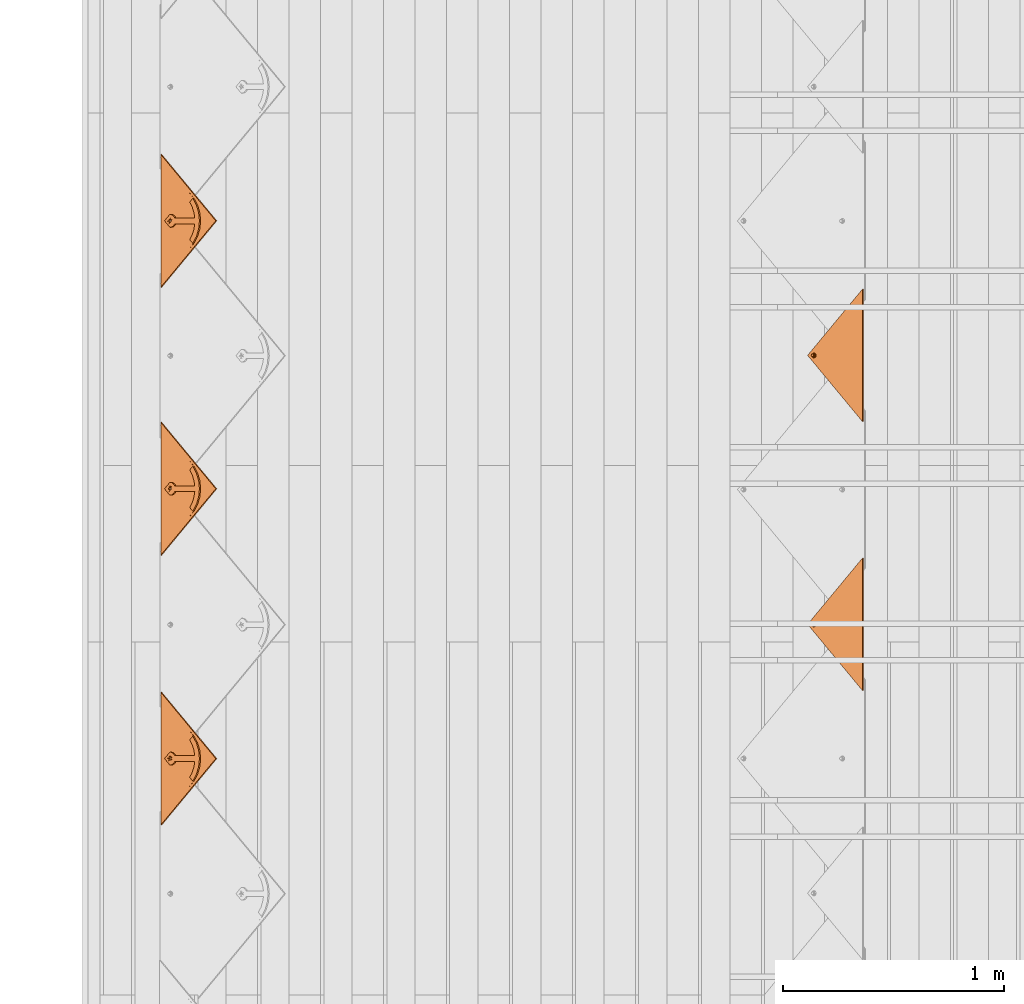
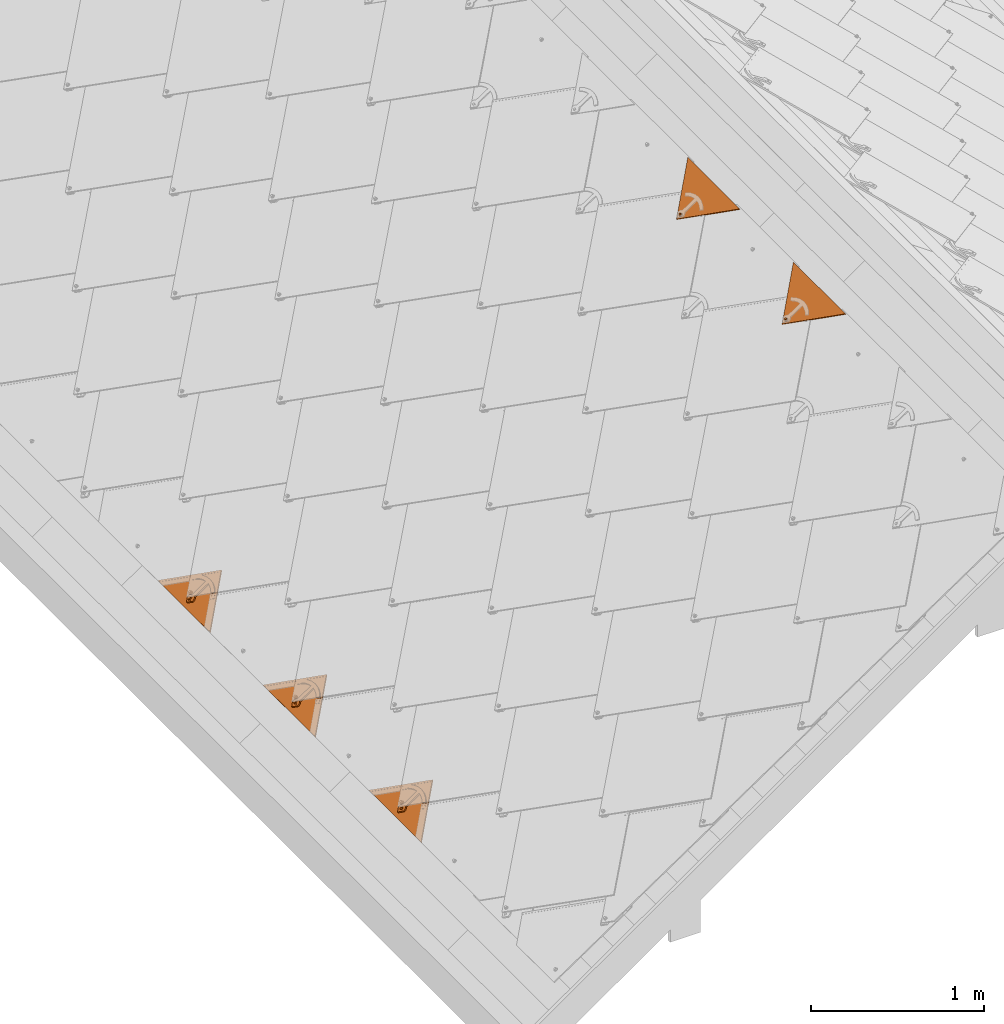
# One storey, part 100 of 133: 5 proxies.
"""IFC2X3 building model written with IfcOpenShell, lengths in millimetres."""

from ifc_helpers import new_model, entity, si_unit, converted_unit, derived_unit, direction, frame, origin, place, context, subcontext, project, spatial, faceted_brep, source, transform, mapped, material, material_list, type_object, type_shapes, element, save


model = new_model("IFC2X3")

# Units and contexts
model_context = context("Model", 3, precision=0.01, world=origin(), true_north=direction((6.12303176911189e-17, 1.0)))
body_context = subcontext(model_context, "Body", "Model", "MODEL_VIEW")
ifc_project = project(units=[si_unit("LENGTHUNIT", "METRE", prefix="MILLI"), si_unit("AREAUNIT", "SQUARE_METRE"), si_unit("VOLUMEUNIT", "CUBIC_METRE"), converted_unit("PLANEANGLEUNIT", "DEGREE", entity("IfcRatioMeasure", 0.0174532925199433), si_unit("PLANEANGLEUNIT", "RADIAN"), dimensions=[0, 0, 0, 0, 0, 0, 0]), si_unit("MASSUNIT", "GRAM", prefix="KILO"), derived_unit("MASSDENSITYUNIT", [(si_unit("MASSUNIT", "GRAM", prefix="KILO"), 1), (si_unit("LENGTHUNIT", "METRE"), -3)]), si_unit("TIMEUNIT", "SECOND"), si_unit("FREQUENCYUNIT", "HERTZ"), si_unit("THERMODYNAMICTEMPERATUREUNIT", "DEGREE_CELSIUS"), derived_unit("THERMALTRANSMITTANCEUNIT", [(si_unit("MASSUNIT", "GRAM", prefix="KILO"), 1), (si_unit("THERMODYNAMICTEMPERATUREUNIT", "KELVIN"), -1), (si_unit("TIMEUNIT", "SECOND"), -3)]), derived_unit("VOLUMETRICFLOWRATEUNIT", [(si_unit("LENGTHUNIT", "METRE"), 3), (si_unit("TIMEUNIT", "SECOND"), -1)]), si_unit("ELECTRICCURRENTUNIT", "AMPERE"), si_unit("ELECTRICVOLTAGEUNIT", "VOLT"), si_unit("POWERUNIT", "WATT"), si_unit("FORCEUNIT", "NEWTON", prefix="KILO"), si_unit("ILLUMINANCEUNIT", "LUX"), si_unit("LUMINOUSFLUXUNIT", "LUMEN"), si_unit("LUMINOUSINTENSITYUNIT", "CANDELA"), derived_unit("USERDEFINED", [(si_unit("MASSUNIT", "GRAM", prefix="KILO"), -1), (si_unit("LENGTHUNIT", "METRE"), -2), (si_unit("TIMEUNIT", "SECOND"), 3), (si_unit("LUMINOUSFLUXUNIT", "LUMEN"), 1)]), derived_unit("LINEARVELOCITYUNIT", [(si_unit("LENGTHUNIT", "METRE"), 1), (si_unit("TIMEUNIT", "SECOND"), -1)]), si_unit("PRESSUREUNIT", "PASCAL"), derived_unit("USERDEFINED", [(si_unit("LENGTHUNIT", "METRE"), -2), (si_unit("MASSUNIT", "GRAM", prefix="KILO"), 1), (si_unit("TIMEUNIT", "SECOND"), -2)])], contexts=[model_context])

# Site, building, storey
site_placement = place(None, origin())
site = spatial("IfcSite", under=ifc_project, at=site_placement, Name="Default", CompositionType="ELEMENT")
building_placement = place(site_placement, origin())
building = spatial("IfcBuilding", under=site, at=building_placement, CompositionType="ELEMENT")
storey_placement = place(building_placement, origin())
storey = spatial("IfcBuildingStorey", under=building, at=storey_placement, Name="Level 1", CompositionType="ELEMENT", Elevation=0.0)

# Proxies
ifc_material_1 = material(Name="Rubber - Sunstyle - Black")
ifc_material_2 = material(Name="Glass - Sunstyle - Tainted Black")
ifc_material_list_1 = material_list([ifc_material_1, ifc_material_2])
ifc_material_list_2 = material_list([ifc_material_1, ifc_material_2])
building_element_proxy_type_1 = type_object("IfcBuildingElementProxyType", Name="Shingle Top Small - Black", PredefinedType="NOTDEFINED", material=ifc_material_list_2)
shared_shape_1 = source(origin(), body_context, "Body", "Brep", [
    faceted_brep([(300.675008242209, 41.77298489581, 1.59527223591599), (294.900805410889, 38.4397147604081, 1.65109621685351), (294.900805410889, 38.8080238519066, 23.6429655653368), (300.675008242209, 42.1412939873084, 23.5871415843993), (294.900805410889, 31.7731744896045, 1.76274417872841), (294.900805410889, 32.1414835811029, 23.7546135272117), (300.675008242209, 28.4399043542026, 1.81856815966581), (300.675008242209, 28.808213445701, 23.8104375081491), (306.44921107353, 31.7731744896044, 1.7627441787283), (306.44921107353, 32.1414835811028, 23.7546135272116), (306.44921107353, 38.4397147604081, 1.65109621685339), (306.44921107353, 38.8080238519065, 23.6429655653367), (292.071304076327, 26.8722558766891, 23.8428599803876), (300.675008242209, 23.3089846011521, 23.9025359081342), (288.507533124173, 35.4747537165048, 23.6987895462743), (292.071304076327, 44.0772515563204, 23.5547191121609), (300.675008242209, 47.6405228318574, 23.4950431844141), (309.278712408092, 44.0772515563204, 23.5547191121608), (312.842483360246, 35.4747537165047, 23.6987895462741), (309.278712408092, 26.872255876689, 23.8428599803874), (289.350763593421, 37.7698308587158, 26.0116314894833), (290.91853368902, 35.5457686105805, 27.9391141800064), (300.67500824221, 42.8588438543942, 28.5718145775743), (300.67500824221, 44.0993414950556, 27.9914679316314), (300.675008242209, 46.2568923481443, 26.98209285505), (300.675008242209, 23.8650286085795, 25.1775938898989), (300.675008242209, 24.8086052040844, 27.3412982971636), (300.675008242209, 28.2579809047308, 28.8163427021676), (300.675008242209, 47.1274867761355, 24.7880055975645), (294.35176254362, 31.9081966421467, 28.7552106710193), (294.35176254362, 39.2086281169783, 28.6329466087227), (311.999252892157, 33.2584106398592, 26.0871865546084), (310.523888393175, 34.4713621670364, 27.8602460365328), (306.998253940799, 39.2086281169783, 28.6329466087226), (306.998253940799, 31.9081966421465, 28.7552106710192), (294.35176254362, 32.0422251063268, 36.7580988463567), (300.67500824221, 28.3920093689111, 36.8192308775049), (300.67500824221, 35.6924408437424, 36.6969668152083), (294.35176254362, 39.342656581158, 36.6358347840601), (306.998253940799, 32.0422251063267, 36.7580988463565), (306.998253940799, 39.342656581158, 36.6358347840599), (300.67500824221, 42.9928723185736, 36.5747027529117), (300.675008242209, 35.1064446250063, 1.7069201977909)], [[[0, 1, 2, 3]], [[1, 4, 5, 2]], [[4, 6, 7, 5]], [[6, 8, 9, 7]], [[8, 10, 11, 9]], [[10, 0, 3, 11]], [[12, 7, 13]], [[7, 12, 5]], [[14, 5, 12]], [[5, 14, 2]], [[15, 2, 14]], [[3, 2, 15]], [[15, 16, 3]], [[16, 17, 3]], [[11, 3, 17]], [[11, 17, 18]], [[9, 11, 18]], [[18, 19, 9]], [[7, 9, 19]], [[19, 13, 7]], [[20, 14, 12]], [[21, 22, 23, 24]], [[24, 20, 21]], [[25, 20, 12]], [[26, 27, 21]], [[15, 14, 20]], [[12, 13, 25]], [[20, 28, 15]], [[28, 20, 24]], [[21, 27, 29]], [[21, 29, 30]], [[26, 21, 20]], [[20, 25, 26]], [[15, 28, 16]], [[21, 30, 22]], [[31, 18, 17]], [[28, 31, 17]], [[32, 27, 26]], [[26, 31, 32]], [[26, 25, 31]], [[25, 19, 31]], [[17, 16, 28]], [[31, 19, 18]], [[24, 31, 28]], [[33, 34, 32]], [[23, 22, 33]], [[24, 32, 31]], [[27, 32, 34]], [[32, 23, 33]], [[19, 25, 13]], [[32, 24, 23]], [[35, 36, 37]], [[37, 38, 35]], [[36, 39, 37]], [[40, 37, 39]], [[37, 40, 41]], [[37, 41, 38]], [[42, 6, 4]], [[4, 1, 42]], [[1, 0, 42]], [[42, 8, 6]], [[0, 10, 42]], [[8, 42, 10]], [[22, 30, 38, 41]], [[30, 29, 35, 38]], [[29, 27, 36, 35]], [[27, 34, 39, 36]], [[34, 33, 40, 39]], [[33, 22, 41, 40]]]),
    faceted_brep([(601.350661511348, 300.716609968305, 19.1616152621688), (307.603211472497, 39.4797476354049, 23.5366826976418), (308.402414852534, 37.5505705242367, 23.5689916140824), (306.331862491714, 41.1363695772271, 23.5089384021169), (308.675008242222, 35.4803084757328, 23.6036633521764), (304.675008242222, 42.4075403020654, 23.4876494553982), (302.745560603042, 43.206631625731, 23.4742666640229), (300.675008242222, 43.4791867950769, 23.4697020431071), (308.402414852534, 33.4100464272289, 23.6383350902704), (300.675330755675, 0.125588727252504, 24.1957669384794), (0.0, 300.716609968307, 19.1616152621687), (298.604455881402, 43.2066316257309, 23.4742666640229), (296.675008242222, 42.4075403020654, 23.4876494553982), (295.018153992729, 41.136369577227, 23.5089384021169), (293.746805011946, 39.4797476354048, 23.5366826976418), (292.947601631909, 37.5505705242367, 23.5689916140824), (292.675008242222, 35.4803084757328, 23.6036633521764), (292.947601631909, 33.4100464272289, 23.6383350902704), (293.746805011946, 31.4808693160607, 23.6706440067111), (307.603211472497, 31.4808693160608, 23.6706440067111), (306.331862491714, 29.8242473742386, 23.698388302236), (304.675008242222, 28.5530766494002, 23.7196772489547), (302.745560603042, 27.7539853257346, 23.73306004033), (300.675008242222, 27.4814301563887, 23.7376246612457), (298.604455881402, 27.7539853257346, 23.73306004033), (296.675008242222, 28.5530766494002, 23.7196772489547), (295.018153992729, 29.8242473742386, 23.698388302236), (0.0, 300.591021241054, 11.6626668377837), (295.018153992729, 41.0107808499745, 16.0099899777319), (293.746805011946, 39.3541589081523, 16.0377342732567), (296.675008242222, 42.2819515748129, 15.9887010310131), (292.947601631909, 37.4249817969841, 16.0700431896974), (298.604455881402, 43.0810428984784, 15.9753182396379), (300.675008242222, 43.3535980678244, 15.9707536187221), (601.350661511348, 300.591021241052, 11.6626668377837), (292.675008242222, 35.3547197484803, 16.1047149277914), (292.947601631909, 33.2844576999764, 16.1393866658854), (300.675330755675, 0.0, 16.6968185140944), (302.745560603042, 43.0810428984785, 15.9753182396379), (304.675008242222, 42.2819515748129, 15.9887010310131), (306.331862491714, 41.0107808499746, 16.0099899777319), (307.603211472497, 39.3541589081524, 16.0377342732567), (308.402414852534, 37.4249817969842, 16.0700431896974), (308.675008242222, 35.3547197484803, 16.1047149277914), (308.402414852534, 33.2844576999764, 16.1393866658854), (307.603211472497, 31.3552805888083, 16.171695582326), (293.746805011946, 31.3552805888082, 16.171695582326), (295.018153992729, 29.6986586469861, 16.1994398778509), (296.675008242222, 28.4274879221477, 16.2207288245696), (298.604455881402, 27.6283965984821, 16.2341116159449), (300.675008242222, 27.3558414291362, 16.2386762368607), (302.745560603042, 27.6283965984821, 16.2341116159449), (304.675008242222, 28.4274879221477, 16.2207288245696), (306.331862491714, 29.6986586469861, 16.1994398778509)], [[[0, 1, 2]], [[1, 0, 3]], [[0, 2, 4]], [[5, 3, 0]], [[6, 5, 0]], [[0, 7, 6]], [[4, 8, 0]], [[8, 9, 0]], [[7, 0, 10]], [[11, 7, 10]], [[12, 11, 10]], [[10, 13, 12]], [[13, 10, 14]], [[15, 14, 10]], [[10, 16, 15]], [[17, 16, 10]], [[10, 9, 17]], [[17, 9, 18]], [[8, 19, 9]], [[20, 9, 19]], [[20, 21, 9]], [[22, 9, 21]], [[23, 9, 22]], [[23, 24, 9]], [[24, 25, 9]], [[25, 26, 9]], [[9, 26, 18]], [[27, 28, 29]], [[28, 27, 30]], [[27, 29, 31]], [[32, 30, 27]], [[33, 32, 27]], [[27, 34, 33]], [[31, 35, 27]], [[35, 36, 27]], [[27, 36, 37]], [[38, 33, 34]], [[39, 38, 34]], [[40, 39, 34]], [[34, 41, 40]], [[41, 34, 42]], [[43, 42, 34]], [[34, 44, 43]], [[37, 44, 34]], [[45, 44, 37]], [[37, 36, 46]], [[37, 46, 47]], [[47, 48, 37]], [[48, 49, 37]], [[50, 37, 49]], [[50, 51, 37]], [[37, 51, 52]], [[52, 53, 37]], [[45, 37, 53]], [[9, 10, 27, 37]], [[0, 9, 37, 34]], [[16, 35, 31, 15]], [[15, 31, 29, 14]], [[12, 13, 28, 30]], [[28, 13, 14, 29]], [[11, 12, 30, 32]], [[11, 32, 33, 7]], [[7, 33, 38, 6]], [[6, 38, 39, 5]], [[1, 3, 40, 41]], [[40, 3, 5, 39]], [[2, 1, 41, 42]], [[2, 42, 43, 4]], [[4, 43, 44, 8]], [[8, 44, 45, 19]], [[21, 20, 53, 52]], [[53, 20, 19, 45]], [[22, 21, 52, 51]], [[22, 51, 50, 23]], [[23, 50, 49, 24]], [[24, 49, 48, 25]], [[18, 26, 47, 46]], [[47, 26, 25, 48]], [[17, 18, 46, 36]], [[17, 36, 35, 16]], [[10, 0, 34, 27]]]),
])
type_shapes(building_element_proxy_type_1, [shared_shape_1])
proxy_1_placement = place(storey_placement, frame((558.087990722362, -2543.8597365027, 2379.24450072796), z_axis=(-0.57357643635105, 0.0, 0.819152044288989), x_axis=(0.0, -1.0, 0.0)))
element("IfcBuildingElementProxy", 1, at=proxy_1_placement, inside=storey, type_object=building_element_proxy_type_1, material=ifc_material_list_1, Name="Roofing_Panels_SunStyle_Tile_Shingle-Top-Small:Shingle Top Small - Black", ObjectType="Roofing_Panels_SunStyle_Tile_Shingle-Top-Small:Shingle Top Small - Black", context=body_context, shape_type="MappedRepresentation", body=[
    mapped(shared_shape_1, transform((0.0, 0.0, 0.0), scale=1.0)),
])
ifc_material_list_3 = material_list([ifc_material_1, ifc_material_2])
proxy_2_placement = place(storey_placement, frame((558.08799072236, -3763.42420773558, 2379.24450072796), z_axis=(-0.57357643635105, 0.0, 0.819152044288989), x_axis=(0.0, -1.0, 0.0)))
element("IfcBuildingElementProxy", 2, at=proxy_2_placement, inside=storey, type_object=building_element_proxy_type_1, material=ifc_material_list_3, Name="Roofing_Panels_SunStyle_Tile_Shingle-Top-Small:Shingle Top Small - Black", ObjectType="Roofing_Panels_SunStyle_Tile_Shingle-Top-Small:Shingle Top Small - Black", context=body_context, shape_type="MappedRepresentation", body=[
    mapped(shared_shape_1, transform((0.0, 0.0, 0.0), scale=1.0)),
])
ifc_material_list_4 = material_list([ifc_material_1, ifc_material_2])
ifc_material_list_5 = material_list([ifc_material_1, ifc_material_2])
building_element_proxy_type_2 = type_object("IfcBuildingElementProxyType", Name="Shingle Bottom Small - Black", PredefinedType="NOTDEFINED", material=ifc_material_list_5)
shared_shape_2 = source(origin(), body_context, "Body", "Brep", [
    faceted_brep([(302.08842791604, 44.9093317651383, 22.0558382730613), (302.08842791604, 49.408700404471, 21.980485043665), (293.484723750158, 48.4726030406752, 21.9961623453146), (310.692132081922, 48.4726030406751, 21.9961623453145), (308.728656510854, 53.2419006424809, 21.9162884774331), (314.255903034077, 57.0751008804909, 21.8520919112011), (308.728656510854, 60.9083011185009, 21.7878953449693), (310.692132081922, 65.6775987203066, 21.7080214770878), (302.08842791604, 64.7415013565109, 21.7236987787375), (302.08842791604, 69.2408699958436, 21.6483455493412), (293.484723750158, 65.6775987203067, 21.708021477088), (295.448199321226, 60.908301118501, 21.7878953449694), (289.920952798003, 57.0751008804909, 21.8520919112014), (295.448199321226, 53.2419006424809, 21.9162884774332), (295.448199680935, 60.6403782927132, 5.79013870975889), (302.08842791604, 64.473578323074, 5.72594214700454), (295.448199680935, 52.9739782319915, 5.91853183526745), (302.08842791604, 49.1407782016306, 5.98272839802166), (308.728656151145, 52.9739782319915, 5.91853183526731), (308.728656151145, 60.6403782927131, 5.79013870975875), (293.484723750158, 48.2046804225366, 5.99840570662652), (302.08842791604, 44.6414091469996, 6.05808163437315), (289.920952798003, 56.8071782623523, 5.85433527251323), (293.484723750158, 65.4096761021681, 5.71026483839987), (302.08842791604, 68.972947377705, 5.65058891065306), (310.692132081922, 65.409676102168, 5.71026483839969), (314.255903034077, 56.8071782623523, 5.85433527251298), (310.692132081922, 48.2046804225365, 5.99840570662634)], [[[0, 1, 2]], [[1, 0, 3]], [[3, 4, 1]], [[4, 3, 5]], [[6, 4, 5]], [[5, 7, 6]], [[7, 8, 6]], [[8, 7, 9]], [[8, 9, 10]], [[10, 11, 8]], [[12, 11, 10]], [[2, 13, 12]], [[12, 13, 11]], [[13, 2, 1]], [[8, 11, 14, 15]], [[11, 13, 16, 14]], [[13, 1, 17, 16]], [[1, 4, 18, 17]], [[4, 6, 19, 18]], [[6, 8, 15, 19]], [[20, 17, 21]], [[17, 20, 16]], [[22, 16, 20]], [[14, 16, 22]], [[23, 14, 22]], [[15, 14, 23]], [[23, 24, 15]], [[24, 25, 15]], [[19, 15, 25]], [[19, 25, 26]], [[26, 18, 19]], [[26, 27, 18]], [[17, 18, 27]], [[27, 21, 17]], [[24, 23, 10, 9]], [[10, 23, 22, 12]], [[20, 21, 0, 2]], [[20, 2, 12, 22]], [[21, 27, 3, 0]], [[3, 27, 26, 5]], [[25, 24, 9, 7]], [[25, 7, 5, 26]]]),
    faceted_brep([(587.35835892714, 0.0, 12.5593198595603), (595.843045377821, 8.4846864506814, 12.4172224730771), (595.843045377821, 8.50980419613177, 13.9170121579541), (587.35835892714, 0.0251177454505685, 14.0591095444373), (302.088750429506, 285.189618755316, 7.7831033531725), (16.8191419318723, 0.0, 12.5593198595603), (8.33445548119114, 8.48468645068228, 12.4172224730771), (302.088750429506, 302.156612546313, 7.49894842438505), (302.088750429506, 302.181730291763, 8.9987381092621), (8.33445548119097, 8.50980419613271, 13.9170121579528), (16.8191419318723, 0.0251177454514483, 14.0591095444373), (302.088750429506, 285.214736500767, 9.28289303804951)], [[[0, 1, 2, 3]], [[1, 0, 4, 5, 6, 7]], [[2, 1, 7, 8]], [[3, 2, 8, 9, 10, 11]], [[0, 3, 11, 4]], [[5, 10, 9, 6]], [[8, 7, 6, 9]], [[4, 11, 10, 5]]]),
    faceted_brep([(302.088750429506, 302.156612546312, 7.49894842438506), (305.194256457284, 68.3255429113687, 11.4150370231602), (308.088427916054, 67.1269059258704, 11.4351112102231), (302.088427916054, 68.7343756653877, 11.4081900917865), (310.573709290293, 65.2201498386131, 11.4670446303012), (298.982599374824, 68.3255429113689, 11.4150370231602), (296.088427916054, 67.1269059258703, 11.4351112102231), (293.603146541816, 65.2201498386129, 11.4670446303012), (312.480732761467, 62.7352169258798, 11.5086610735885), (604.177500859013, 0.152567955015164, 12.5567647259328), (291.696123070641, 62.7352169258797, 11.5086610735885), (0.0, 0.152567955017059, 12.5567647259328), (290.497318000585, 59.8414512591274, 11.5571244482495), (290.088427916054, 56.7360581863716, 11.6091320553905), (290.497318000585, 53.6306651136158, 11.6611396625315), (291.696123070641, 50.7368994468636, 11.7096030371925), (293.603146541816, 48.2519665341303, 11.7512194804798), (296.088427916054, 46.3452104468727, 11.7831529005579), (298.982599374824, 45.1465734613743, 11.8032270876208), (302.088427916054, 44.7377407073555, 11.8100740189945), (313.679537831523, 59.8414512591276, 11.5571244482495), (314.088427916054, 56.7360581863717, 11.6091320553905), (313.679537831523, 53.6306651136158, 11.6611396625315), (312.480732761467, 50.7368994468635, 11.7096030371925), (310.573709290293, 48.2519665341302, 11.7512194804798), (308.088427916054, 46.3452104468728, 11.7831529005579), (305.194256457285, 45.1465734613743, 11.8032270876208), (0.0, 0.0269792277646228, 5.0578163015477), (290.088427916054, 56.6104694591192, 4.11018363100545), (290.497318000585, 53.5050763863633, 4.16219123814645), (290.497318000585, 59.7158625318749, 4.05817602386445), (291.696123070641, 50.6113107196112, 4.21065461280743), (291.696123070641, 62.6096281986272, 4.00971264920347), (302.088750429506, 302.031023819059, 0.0), (293.603146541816, 48.1263778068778, 4.25227105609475), (296.088427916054, 46.2196217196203, 4.28420447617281), (298.982599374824, 45.0209847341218, 4.30427866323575), (302.088427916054, 44.612151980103, 4.31112559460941), (604.177500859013, 0.0269792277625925, 5.05781630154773), (293.603146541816, 65.0945611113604, 3.96809620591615), (296.088427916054, 67.0013171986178, 3.93616278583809), (298.982599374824, 68.1999541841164, 3.91608859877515), (302.088427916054, 68.6087869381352, 3.90924166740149), (305.194256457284, 68.1999541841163, 3.91608859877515), (308.088427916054, 67.0013171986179, 3.93616278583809), (310.573709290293, 65.0945611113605, 3.96809620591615), (312.480732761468, 62.6096281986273, 4.00971264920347), (305.194256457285, 45.0209847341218, 4.30427866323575), (308.088427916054, 46.2196217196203, 4.28420447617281), (313.679537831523, 59.7158625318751, 4.05817602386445), (314.088427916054, 56.6104694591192, 4.11018363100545), (313.679537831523, 53.5050763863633, 4.16219123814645), (312.480732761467, 50.611310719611, 4.21065461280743), (310.573709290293, 48.1263778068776, 4.25227105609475)], [[[0, 1, 2]], [[1, 0, 3]], [[0, 2, 4]], [[5, 3, 0]], [[6, 5, 0]], [[0, 7, 6]], [[8, 0, 4]], [[0, 8, 9]], [[7, 0, 10]], [[0, 11, 10]], [[12, 10, 11]], [[11, 13, 12]], [[13, 11, 14]], [[15, 14, 11]], [[11, 16, 15]], [[17, 16, 11]], [[17, 11, 18]], [[19, 18, 11]], [[19, 11, 9]], [[9, 8, 20]], [[20, 21, 9]], [[21, 22, 9]], [[22, 23, 9]], [[9, 23, 24]], [[24, 25, 9]], [[25, 26, 9]], [[9, 26, 19]], [[27, 28, 29]], [[28, 27, 30]], [[27, 29, 31]], [[32, 30, 27]], [[32, 27, 33]], [[31, 34, 27]], [[34, 35, 27]], [[35, 36, 27]], [[36, 37, 27]], [[27, 37, 38]], [[33, 39, 32]], [[40, 39, 33]], [[41, 40, 33]], [[42, 41, 33]], [[33, 43, 42]], [[43, 33, 44]], [[45, 44, 33]], [[33, 46, 45]], [[46, 33, 38]], [[38, 37, 47]], [[47, 48, 38]], [[49, 46, 38]], [[38, 50, 49]], [[50, 38, 51]], [[52, 51, 38]], [[53, 52, 38]], [[53, 38, 48]], [[11, 0, 33, 27]], [[0, 9, 38, 33]], [[13, 28, 30, 12]], [[12, 30, 32, 10]], [[6, 7, 39, 40]], [[39, 7, 10, 32]], [[5, 6, 40, 41]], [[5, 41, 42, 3]], [[3, 42, 43, 1]], [[1, 43, 44, 2]], [[8, 4, 45, 46]], [[45, 4, 2, 44]], [[20, 8, 46, 49]], [[20, 49, 50, 21]], [[21, 50, 51, 22]], [[22, 51, 52, 23]], [[25, 24, 53, 48]], [[53, 24, 23, 52]], [[26, 25, 48, 47]], [[26, 47, 37, 19]], [[19, 37, 36, 18]], [[18, 36, 35, 17]], [[15, 16, 34, 31]], [[34, 16, 17, 35]], [[14, 15, 31, 29]], [[14, 29, 28, 13]], [[9, 11, 27, 38]]]),
    faceted_brep([(190.819384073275, 138.646056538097, 12.7376939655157), (217.144031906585, 164.967013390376, 12.2968834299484), (200.060856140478, 182.04779392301, 12.0108228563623), (193.80845410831, 176.686146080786, 12.100617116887), (187.837458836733, 171.012871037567, 12.1956303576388), (173.141714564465, 156.321247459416, 12.4416784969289), (431.035141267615, 156.321247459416, 12.4416784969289), (416.339396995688, 171.012871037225, 12.1956303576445), (410.36840172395, 176.686146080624, 12.1006171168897), (404.115999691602, 182.047793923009, 12.0108228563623), (387.031626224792, 164.968210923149, 12.2968633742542), (413.357471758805, 138.646056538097, 12.7376939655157), (296.088427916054, 67.294357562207, 21.4337091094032), (288.788427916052, 83.1076295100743, 21.1688761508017), (283.384321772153, 79.569581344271, 21.2281296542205), (293.603146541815, 65.3876014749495, 21.4656425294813), (298.982599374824, 68.4929945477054, 21.4136349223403), (302.088427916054, 68.9018273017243, 21.4067879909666), (315.388427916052, 83.107629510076, 21.1688761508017), (305.194256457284, 68.4929945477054, 21.4136349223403), (308.088427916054, 67.2943575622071, 21.4337091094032), (320.792534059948, 79.5695813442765, 21.2281296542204), (310.573709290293, 65.3876014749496, 21.4656425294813), (325.293078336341, 74.9365758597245, 21.3057209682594), (312.480732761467, 62.9026685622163, 21.5072589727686), (328.672647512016, 69.4324252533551, 21.3979017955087), (313.679537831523, 60.0089028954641, 21.5557223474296), (330.767980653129, 63.323025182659, 21.500219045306), (314.088427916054, 56.9035098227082, 21.6077299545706), (331.477855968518, 56.9035098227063, 21.6077299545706), (313.679537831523, 53.7981167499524, 21.6597375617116), (312.480732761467, 50.9043510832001, 21.7082009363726), (310.573709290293, 48.4194181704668, 21.7498173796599), (302.08842791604, 27.5182024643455, 22.0998607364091), (308.088427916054, 46.5126620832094, 21.7817507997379), (305.194256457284, 45.314025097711, 21.8018249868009), (302.088427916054, 44.9051923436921, 21.8086719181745), (298.982599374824, 45.314025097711, 21.8018249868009), (296.088427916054, 46.5126620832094, 21.7817507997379), (293.603146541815, 48.4194181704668, 21.7498173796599), (272.69899986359, 56.903509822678, 21.6077299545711), (291.696123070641, 50.9043510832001, 21.7082009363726), (290.497318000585, 53.7981167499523, 21.6597375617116), (290.088427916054, 56.9035098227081, 21.6077299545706), (273.408875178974, 63.3230251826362, 21.5002190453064), (290.497318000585, 60.008902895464, 21.5557223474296), (275.504208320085, 69.4324252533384, 21.397901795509), (291.696123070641, 62.9026685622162, 21.5072589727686), (278.883777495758, 74.9365758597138, 21.3057209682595), (288.788427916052, 192.984512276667, 19.3287117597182), (315.388427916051, 192.984512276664, 19.3287117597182), (302.088427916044, 218.456125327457, 18.9021256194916), (338.579268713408, 214.282159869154, 18.9720291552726), (340.858170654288, 188.169632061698, 19.4093490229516), (373.184513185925, 201.975945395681, 19.1781276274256), (365.012761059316, 178.765998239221, 19.5668364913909), (404.115999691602, 182.173382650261, 19.5097712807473), (387.032823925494, 165.092602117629, 19.7958318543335), (265.59758711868, 214.28215986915, 18.9720291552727), (263.318685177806, 188.169632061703, 19.4093490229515), (230.992342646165, 201.975945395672, 19.1781276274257), (239.164094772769, 178.765998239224, 19.5668364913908), (200.06085614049, 182.173382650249, 19.5097712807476), (217.144031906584, 165.092602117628, 19.7958318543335), (302.08842791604, 27.3507508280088, 12.1012628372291), (302.088427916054, 44.7377407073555, 11.8100740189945), (305.194256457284, 45.1465734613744, 11.8032270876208), (298.982599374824, 45.1465734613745, 11.8032270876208), (308.088427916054, 46.3452104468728, 11.7831529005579), (310.573709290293, 48.2519665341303, 11.7512194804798), (331.477855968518, 56.7360581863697, 11.6091320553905), (296.088427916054, 46.3452104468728, 11.7831529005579), (293.603146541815, 48.2519665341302, 11.7512194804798), (272.69899986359, 56.7360581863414, 11.609132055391), (291.696123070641, 50.7368994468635, 11.7096030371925), (290.497318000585, 53.6306651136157, 11.6611396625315), (290.088427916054, 56.7360581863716, 11.6091320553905), (273.408875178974, 63.1555735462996, 11.5016211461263), (290.497318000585, 59.8414512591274, 11.5571244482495), (275.504208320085, 69.2649736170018, 11.3993038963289), (291.696123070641, 62.7352169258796, 11.5086610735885), (278.883777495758, 74.7691242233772, 11.3071230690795), (293.603146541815, 65.2201498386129, 11.4670446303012), (283.384321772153, 79.4021297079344, 11.2295317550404), (296.088427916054, 67.1269059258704, 11.4351112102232), (288.788427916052, 82.9401778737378, 11.1702782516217), (298.982599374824, 68.3255429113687, 11.4150370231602), (302.088427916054, 68.7343756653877, 11.4081900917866), (315.388427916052, 82.9401778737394, 11.1702782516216), (288.788427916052, 192.81706064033, 9.33011386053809), (315.388427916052, 192.817060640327, 9.33011386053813), (302.088427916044, 218.28867369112, 8.90352772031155), (265.59758711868, 214.114708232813, 8.97343125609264), (263.318685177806, 188.002180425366, 9.41075112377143), (230.992342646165, 201.808493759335, 9.17952972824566), (239.164094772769, 178.598546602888, 9.56823859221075), (200.06085614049, 182.005931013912, 9.51117338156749), (217.145229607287, 164.926348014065, 9.79721389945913), (193.80845410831, 176.644283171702, 9.60096764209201), (187.837458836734, 170.971008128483, 9.69598088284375), (190.819384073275, 138.604193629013, 10.2380444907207), (173.141714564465, 156.279384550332, 9.94202902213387), (338.579268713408, 214.114708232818, 8.97343125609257), (340.858170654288, 188.002180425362, 9.41075112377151), (373.184513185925, 201.808493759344, 9.17952972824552), (365.012761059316, 178.598546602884, 9.5682385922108), (404.115999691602, 182.005931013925, 9.51117338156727), (387.032823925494, 164.925150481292, 9.79723395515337), (410.36840172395, 176.64428317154, 9.60096764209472), (416.339396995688, 170.971008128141, 9.69598088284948), (413.357471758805, 138.604193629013, 10.2380444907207), (431.035141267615, 156.279384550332, 9.94202902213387), (305.194256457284, 68.3255429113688, 11.4150370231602), (308.088427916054, 67.1269059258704, 11.4351112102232), (320.792534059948, 79.4021297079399, 11.2295317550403), (310.573709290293, 65.220149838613, 11.4670446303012), (325.293078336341, 74.7691242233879, 11.3071230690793), (312.480732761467, 62.7352169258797, 11.5086610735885), (328.672647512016, 69.2649736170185, 11.3993038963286), (313.679537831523, 59.8414512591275, 11.5571244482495), (330.767980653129, 63.1555735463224, 11.5016211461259), (314.088427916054, 56.7360581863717, 11.6091320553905), (312.480732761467, 50.7368994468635, 11.7096030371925), (313.679537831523, 53.6306651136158, 11.6611396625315)], [[[0, 1, 2, 3, 4, 5]], [[6, 7, 8, 9, 10, 11]], [[12, 13, 14]], [[12, 14, 15]], [[16, 13, 12]], [[17, 13, 16]], [[18, 13, 17]], [[17, 19, 18]], [[19, 20, 18]], [[20, 21, 18]], [[21, 20, 22]], [[21, 22, 23]], [[24, 23, 22]], [[23, 24, 25]], [[24, 26, 25]], [[27, 25, 26]], [[26, 28, 27]], [[29, 27, 28]], [[28, 30, 29]], [[30, 31, 29]], [[29, 31, 32]], [[32, 33, 29]], [[32, 34, 33]], [[35, 33, 34]], [[36, 33, 35]], [[33, 36, 37]], [[38, 33, 37]], [[38, 39, 33]], [[40, 33, 39]], [[41, 40, 39]], [[41, 42, 40]], [[42, 43, 40]], [[43, 44, 40]], [[45, 44, 43]], [[45, 46, 44]], [[45, 47, 46]], [[48, 46, 47]], [[48, 47, 15]], [[48, 15, 14]], [[18, 49, 13]], [[50, 49, 18]], [[51, 49, 50]], [[50, 52, 51]], [[50, 53, 52]], [[52, 53, 54]], [[53, 55, 54]], [[56, 54, 55]], [[57, 56, 55]], [[58, 49, 51]], [[49, 58, 59]], [[60, 59, 58]], [[60, 61, 59]], [[61, 60, 62]], [[62, 63, 61]], [[64, 65, 66]], [[65, 64, 67]], [[64, 66, 68]], [[68, 69, 64]], [[64, 69, 70]], [[71, 67, 64]], [[71, 64, 72]], [[72, 64, 73]], [[73, 74, 72]], [[74, 73, 75]], [[75, 73, 76]], [[77, 76, 73]], [[76, 77, 78]], [[78, 77, 79]], [[80, 78, 79]], [[81, 80, 79]], [[82, 80, 81]], [[83, 82, 81]], [[83, 84, 82]], [[85, 84, 83]], [[85, 86, 84]], [[87, 86, 85]], [[88, 87, 85]], [[89, 88, 85]], [[88, 89, 90]], [[89, 91, 90]], [[91, 89, 92]], [[93, 92, 89]], [[92, 93, 94]], [[95, 94, 93]], [[96, 94, 95]], [[95, 97, 96]], [[97, 98, 96]], [[98, 97, 99]], [[97, 100, 99]], [[99, 100, 101]], [[90, 91, 102]], [[103, 90, 102]], [[103, 102, 104]], [[105, 103, 104]], [[106, 105, 104]], [[107, 105, 106]], [[106, 108, 107]], [[109, 107, 108]], [[110, 107, 109]], [[109, 111, 110]], [[112, 87, 88]], [[113, 112, 88]], [[114, 113, 88]], [[115, 113, 114]], [[115, 114, 116]], [[116, 117, 115]], [[117, 116, 118]], [[118, 119, 117]], [[120, 119, 118]], [[121, 120, 70]], [[120, 121, 119]], [[70, 69, 122]], [[122, 123, 70]], [[123, 121, 70]], [[13, 49, 89, 85]], [[14, 13, 85, 83]], [[48, 14, 83, 81]], [[81, 79, 46, 48]], [[44, 46, 79, 77]], [[40, 44, 77, 73]], [[33, 40, 73, 64]], [[0, 5, 101, 100]], [[29, 33, 64, 70]], [[6, 11, 110, 111]], [[27, 29, 70, 120]], [[25, 27, 120, 118]], [[118, 116, 23, 25]], [[21, 23, 116, 114]], [[18, 21, 114, 88]], [[50, 18, 88, 90]], [[9, 106, 104, 54, 56]], [[52, 54, 104, 102]], [[51, 52, 102, 91]], [[58, 51, 91, 92]], [[94, 96, 2, 62, 60]], [[60, 58, 92, 94]], [[43, 76, 78, 45]], [[45, 78, 80, 47]], [[12, 15, 82, 84]], [[80, 82, 15, 47]], [[16, 12, 84, 86]], [[87, 17, 16, 86]], [[19, 112, 113, 20]], [[20, 113, 115, 22]], [[26, 24, 117, 119]], [[115, 117, 24, 22]], [[28, 26, 119, 121]], [[19, 17, 87, 112]], [[28, 121, 123, 30]], [[30, 123, 122, 31]], [[34, 32, 69, 68]], [[122, 69, 32, 31]], [[35, 34, 68, 66]], [[65, 36, 35, 66]], [[37, 67, 71, 38]], [[38, 71, 72, 39]], [[42, 41, 74, 75]], [[72, 74, 41, 39]], [[43, 42, 75, 76]], [[37, 36, 65, 67]], [[7, 6, 111, 109]], [[7, 109, 108, 8]], [[108, 106, 9, 8]], [[11, 10, 107, 110]], [[1, 0, 100, 97]], [[2, 96, 98, 3]], [[98, 99, 4, 3]], [[5, 4, 99, 101]], [[63, 62, 2, 1]], [[56, 57, 10]], [[10, 9, 56]], [[1, 95, 61, 63]], [[1, 97, 95]], [[93, 89, 49, 59]], [[95, 93, 59, 61]], [[90, 103, 53, 50]], [[103, 105, 55, 53]], [[10, 57, 55]], [[107, 10, 105]], [[55, 105, 10]]]),
])
type_shapes(building_element_proxy_type_2, [shared_shape_2])
proxy_3_placement = place(storey_placement, frame((-2381.4644336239, -1932.41990105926, 315.884675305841), z_axis=(-0.57357643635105, 0.0, 0.819152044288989), x_axis=(0.0, -1.0, 0.0)))
element("IfcBuildingElementProxy", 3, at=proxy_3_placement, inside=storey, type_object=building_element_proxy_type_2, material=ifc_material_list_4, Name="Roofing_Panels_SunStyle_Tile_Shingle-Bottom-Small:Shingle Bottom Small - Black", ObjectType="Roofing_Panels_SunStyle_Tile_Shingle-Bottom-Small:Shingle Bottom Small - Black", context=body_context, shape_type="MappedRepresentation", body=[
    mapped(shared_shape_2, transform((0.0, 0.0, 0.0), scale=1.0)),
])
ifc_material_list_6 = material_list([ifc_material_1, ifc_material_2])
proxy_4_placement = place(storey_placement, frame((-2381.4644336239, -3147.41990105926, 315.884675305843), z_axis=(-0.57357643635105, 0.0, 0.819152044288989), x_axis=(0.0, -1.0, 0.0)))
element("IfcBuildingElementProxy", 4, at=proxy_4_placement, inside=storey, type_object=building_element_proxy_type_2, material=ifc_material_list_6, Name="Roofing_Panels_SunStyle_Tile_Shingle-Bottom-Small:Shingle Bottom Small - Black", ObjectType="Roofing_Panels_SunStyle_Tile_Shingle-Bottom-Small:Shingle Bottom Small - Black", context=body_context, shape_type="MappedRepresentation", body=[
    mapped(shared_shape_2, transform((0.0, 0.0, 0.0), scale=1.0)),
])
ifc_material_list_7 = material_list([ifc_material_1, ifc_material_2])
proxy_5_placement = place(storey_placement, frame((-2381.4644336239, -4371.05500119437, 315.884675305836), z_axis=(-0.57357643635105, 0.0, 0.819152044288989), x_axis=(0.0, -1.0, 0.0)))
element("IfcBuildingElementProxy", 5, at=proxy_5_placement, inside=storey, type_object=building_element_proxy_type_2, material=ifc_material_list_7, Name="Roofing_Panels_SunStyle_Tile_Shingle-Bottom-Small:Shingle Bottom Small - Black", ObjectType="Roofing_Panels_SunStyle_Tile_Shingle-Bottom-Small:Shingle Bottom Small - Black", context=body_context, shape_type="MappedRepresentation", body=[
    mapped(shared_shape_2, transform((0.0, 0.0, 0.0), scale=1.0)),
])

save(model, "model.ifc")
